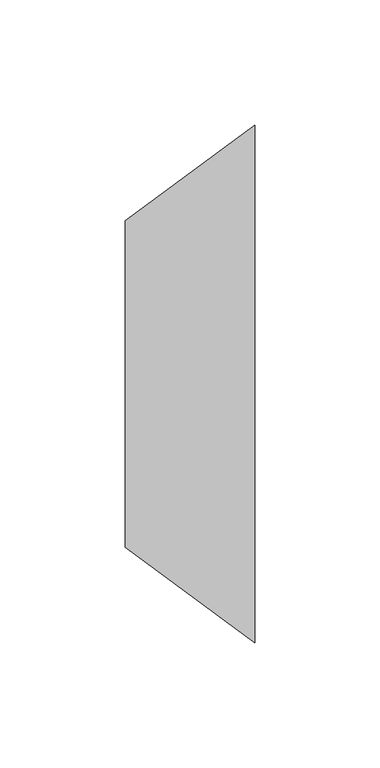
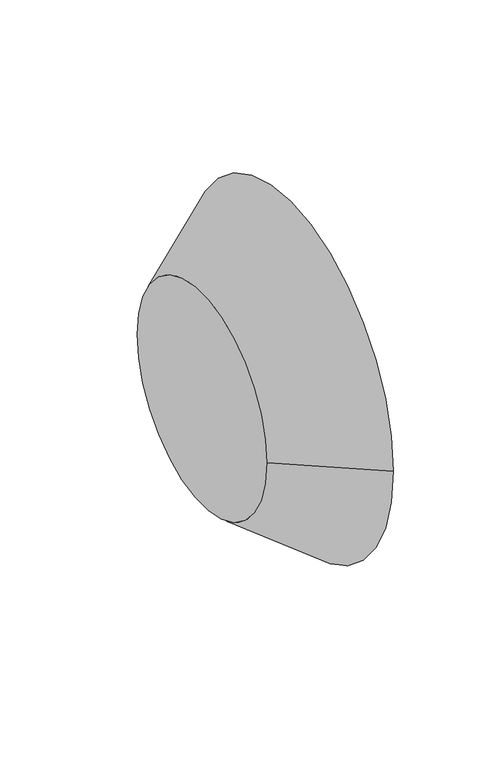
"""IFC4 building model written with IfcOpenShell, lengths in millimetres: pipe fitting geometry, M_Transición - Genérica : Estándar."""

from ifc_helpers import new_model, si_unit, frame, origin, place, context, project, spatial, polyline, circle_curve, source, transform, mapped, element, save
from ifc_brep_helpers import plane_surface, revolved_surface, advanced_brep


def pipe_fitting_de21bee5(model_context):
    return source(origin(), model_context, "Body", "AdvancedBrep", [
        advanced_brep(
        [(51.59375, -103.1875, 0.0), (51.59375, 103.1875, 0.0), (0.0, -65.0875, 0.0), (0.0, 65.0875, 0.0)],
        [
            (0, 1, circle_curve(frame((51.59375, 0.0, 0.0), z_axis=(1.0, 0.0, 0.0), x_axis=(0.0, -1.0, 0.0)), 103.1875)),
            (1, 0, circle_curve(frame((51.59375, 0.0, 0.0), z_axis=(1.0, 0.0, 0.0), x_axis=(0.0, 1.0, 0.0)), 103.1875)),
            (2, 3, circle_curve(frame((0.0, 0.0, 0.0), z_axis=(-1.0, 0.0, 0.0), x_axis=(0.0, 1.0, 0.0)), 65.0875)),
            (3, 2, circle_curve(frame((0.0, 0.0, 0.0), z_axis=(-1.0, 0.0, 0.0), x_axis=(0.0, -1.0, 0.0)), 65.0875)),
            (3, 1),
            (0, 2),
        ],
        [
            plane_surface(frame((51.59375, 0.0, 0.0), z_axis=(1.0, 0.0, 0.0), x_axis=(0.0, 0.0, -1.0))),
            plane_surface(frame((0.0, 0.0, 0.0), z_axis=(-1.0, 0.0, 0.0), x_axis=(0.0, 0.0, -1.0))),
            revolved_surface(polyline([(0.0, 65.08749999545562, 0.0), (51.59375, 103.1875, 0.0)]), (-88.1393229, 0.0, 0.0), (1.0, 0.0, 0.0)),
            revolved_surface(polyline([(0.0, -65.08749999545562, 0.0), (51.59375, -103.1875, 0.0)]), (-88.1393229, 0.0, 0.0), (1.0, 0.0, 0.0)),
        ],
        [
            (0, [[1, 2]]),
            (1, [[3, 4]]),
            (2, [[-4, 5, -1, 6]]),
            (3, [[-3, -6, -2, -5]]),
        ],
    ),
    ])


if __name__ == "__main__":
    model = new_model("IFC4")
    model_context = context("Model", 3, world=origin())
    ifc_project = project(units=[si_unit("LENGTHUNIT", "METRE", prefix="MILLI")], contexts=[model_context])
    site = spatial("IfcSite", under=ifc_project)
    building = spatial("IfcBuilding", under=site)
    placement = place(None, origin())
    pipe_fitting_shape = pipe_fitting_de21bee5(model_context)
    element("IfcPipeFitting", 1, ObjectType="M_Transición - Genérica : Estándar", at=placement, inside=building, context=model_context, shape_type="MappedRepresentation", body=[
        mapped(pipe_fitting_shape, transform((0.0, 0.0, 0.0), x_axis=(1.0, 0.0, 0.0), y_axis=(0.0, 1.0, 0.0), z_axis=(0.0, 0.0, 1.0))),
    ])
    save(model, "model.ifc")
